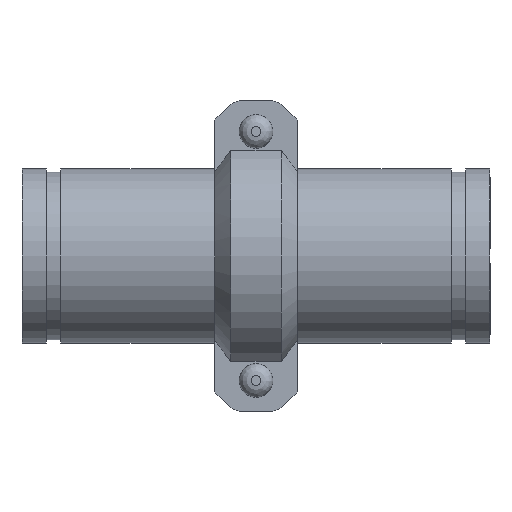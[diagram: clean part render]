
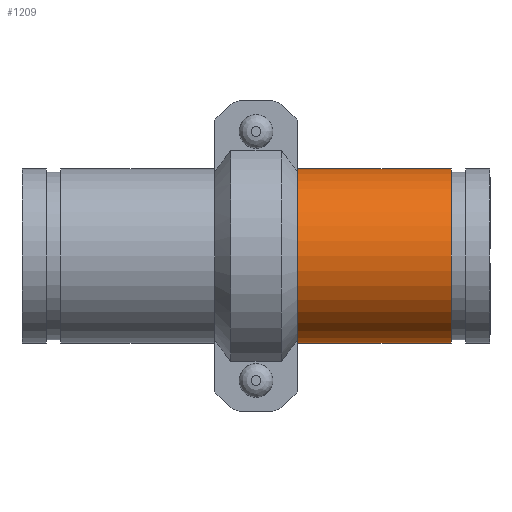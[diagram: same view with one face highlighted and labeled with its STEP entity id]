
A CAD part, front view. The second image highlights one B-rep face of the part: STEP entity #1209.
In plain terms, the highlighted cylindrical face has radius 57.15 mm (diameter 114.3 mm), a full revolution.
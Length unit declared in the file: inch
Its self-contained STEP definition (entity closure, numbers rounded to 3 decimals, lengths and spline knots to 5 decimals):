
#48=LINE('',#1911,#135);
#135=VECTOR('',#1552,2.25);
#222=CYLINDRICAL_SURFACE('',#1377,2.25);
#267=FACE_OUTER_BOUND('',#340,.T.);
#340=EDGE_LOOP('',(#797,#798,#799,#800,#801,#802));
#432=CIRCLE('',#1375,2.25);
#433=CIRCLE('',#1376,2.25);
#434=CIRCLE('',#1378,2.25);
#435=CIRCLE('',#1379,2.25);
#500=VERTEX_POINT('',#1902);
#501=VERTEX_POINT('',#1903);
#502=VERTEX_POINT('',#1907);
#503=VERTEX_POINT('',#1908);
#617=EDGE_CURVE('',#500,#501,#432,.T.);
#618=EDGE_CURVE('',#501,#500,#433,.T.);
#619=EDGE_CURVE('',#502,#503,#434,.T.);
#620=EDGE_CURVE('',#503,#502,#435,.T.);
#621=EDGE_CURVE('',#503,#501,#48,.T.);
#797=ORIENTED_EDGE('',*,*,#619,.F.);
#798=ORIENTED_EDGE('',*,*,#620,.F.);
#799=ORIENTED_EDGE('',*,*,#621,.T.);
#800=ORIENTED_EDGE('',*,*,#618,.T.);
#801=ORIENTED_EDGE('',*,*,#617,.T.);
#802=ORIENTED_EDGE('',*,*,#621,.F.);
#1209=ADVANCED_FACE('',(#267),#222,.T.);
#1375=AXIS2_PLACEMENT_3D('',#1904,#1542,#1543);
#1376=AXIS2_PLACEMENT_3D('',#1905,#1544,#1545);
#1377=AXIS2_PLACEMENT_3D('',#1906,#1546,#1547);
#1378=AXIS2_PLACEMENT_3D('',#1909,#1548,#1549);
#1379=AXIS2_PLACEMENT_3D('',#1910,#1550,#1551);
#1542=DIRECTION('center_axis',(-1.,0.,0.));
#1543=DIRECTION('ref_axis',(0.,0.,1.));
#1544=DIRECTION('center_axis',(-1.,0.,0.));
#1545=DIRECTION('ref_axis',(0.,0.,1.));
#1546=DIRECTION('center_axis',(-1.,0.,0.));
#1547=DIRECTION('ref_axis',(0.,1.,0.));
#1548=DIRECTION('center_axis',(-1.,0.,0.));
#1549=DIRECTION('ref_axis',(0.,0.,1.));
#1550=DIRECTION('center_axis',(-1.,0.,0.));
#1551=DIRECTION('ref_axis',(0.,0.,1.));
#1552=DIRECTION('',(1.,0.,0.));
#1902=CARTESIAN_POINT('',(2.,2.25,0.));
#1903=CARTESIAN_POINT('',(2.,-2.25,0.));
#1904=CARTESIAN_POINT('Origin',(2.,0.,0.));
#1905=CARTESIAN_POINT('Origin',(2.,0.,0.));
#1906=CARTESIAN_POINT('Origin',(0.,0.,
0.));
#1907=CARTESIAN_POINT('',(-2.,2.25,0.));
#1908=CARTESIAN_POINT('',(-2.,-2.25,0.));
#1909=CARTESIAN_POINT('Origin',(-2.,0.,0.));
#1910=CARTESIAN_POINT('Origin',(-2.,0.,0.));
#1911=CARTESIAN_POINT('',(0.,-2.25,0.));
